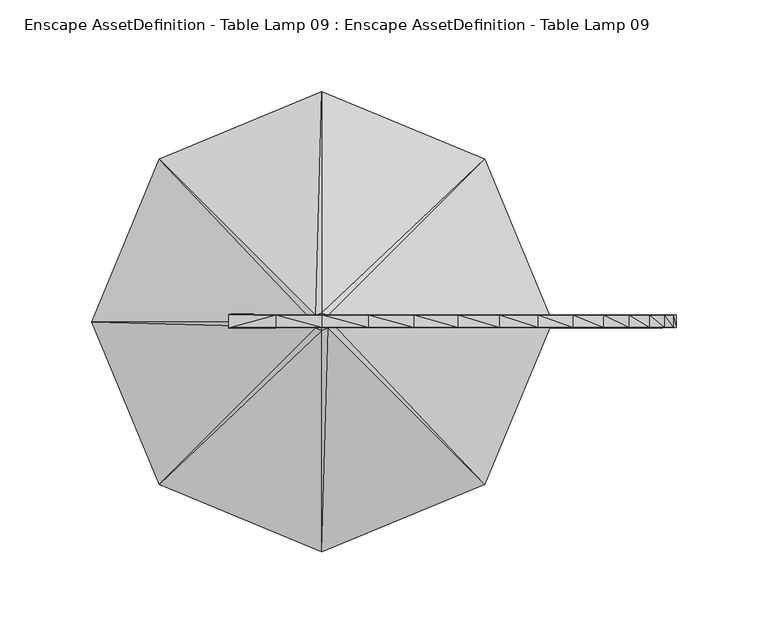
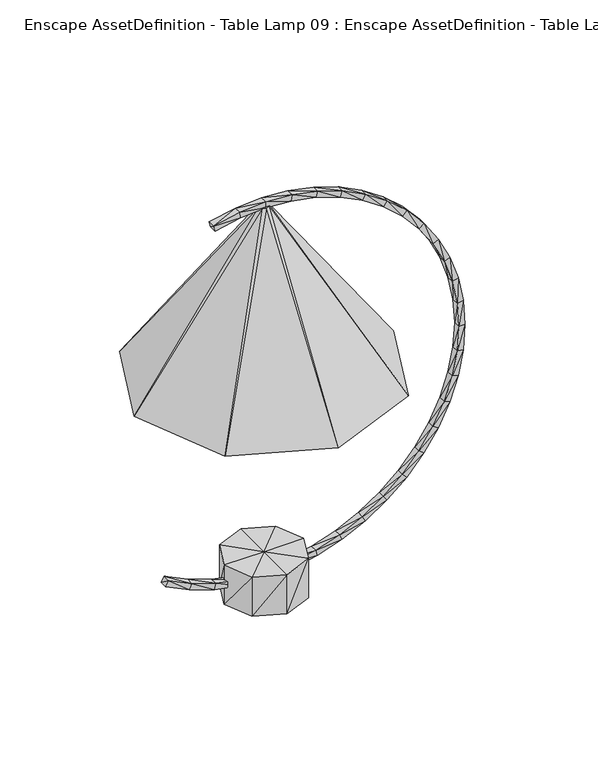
"""IFC4 building model written with IfcOpenShell, lengths in millimetres: geographic element geometry, Enscape AssetDefinition - Table Lamp 09 : Enscape AssetDefinition - Table Lamp 09."""

from ifc_helpers import new_model, si_unit, origin, place, context, project, spatial, faceted_brep, source, transform, mapped, element, save


def enscape_assetdefinition_table_lamp_09_enscape_425b9ab9(model_context):
    return source(origin(), model_context, "Body", "Brep", [
        faceted_brep([(4.6518203, -0.2605889, 394.6988881), (125.2307147, -0.260582, 222.6560414), (3.2475439, 3.1296343, 394.6988881), (-0.142678, -0.2605857, 222.6560414), (88.5096863, 88.3917883, 222.6560414), (88.5096788, -88.9129639, 222.6560414), (-0.1426784, 4.5339107, 394.6988881), (-0.1426778, -0.2605882, 394.6988881), (3.2475439, -3.6508101, 394.6988881), (-0.1426767, -125.6339699, 222.6560414), (-0.1426781, -5.0550862, 394.6988881), (-3.5329005, 3.1296343, 394.6988881), (-4.9371766, -0.2605893, 394.6988881), (-3.5328974, -3.6508101, 394.6988881), (-0.1426837, 125.1128018, 222.6560414), (-88.795051, 88.3917883, 222.6560414), (-125.516057, -0.260593, 222.6560414), (-88.7950286, -88.9129639, 222.6560414)], [[[0, 1, 2]], [[3, 4, 1]], [[3, 1, 5]], [[2, 1, 4]], [[0, 5, 1]], [[2, 4, 6]], [[7, 0, 2]], [[7, 2, 6]], [[8, 5, 0]], [[7, 8, 0]], [[3, 5, 9]], [[8, 9, 5]], [[10, 9, 8]], [[7, 10, 8]], [[7, 6, 11]], [[7, 11, 12]], [[7, 12, 13]], [[7, 13, 10]], [[6, 14, 11]], [[6, 4, 14]], [[11, 15, 12]], [[11, 14, 15]], [[12, 16, 13]], [[12, 15, 16]], [[13, 17, 10]], [[13, 16, 17]], [[10, 17, 9]], [[3, 9, 17]], [[3, 17, 16]], [[3, 16, 15]], [[3, 15, 14]], [[3, 14, 4]]]),
        faceted_brep([(25.1693577, -3.4795036, 398.3503282), (2.8e-06, 3.4794277, 400.000006), (2.8e-06, -3.4794847, 400.000006), (25.1693577, 3.4794451, 398.3503282), (4.3e-06, 3.5197299, 394.0055072), (-25.1693521, 3.4794926, 398.3503282), (-24.3869107, 3.5197346, 392.4070895), (24.3869182, 3.5197523, 392.4071193), (49.9080606, -3.4795015, 393.4295177), (49.9080606, 3.4794463, 393.4295177), (4.6e-06, -3.5197837, 394.0055072), (-24.3869107, -3.5197616, 392.4070895), (-49.4665354, 3.8066362, 387.4213099), (-49.4665243, -3.8066024, 387.4213099), (-25.1693521, -3.4795504, 398.3503282), (-50.9612858, -3.7752592, 393.0943012), (24.3869182, -3.5198063, 392.4071193), (-50.9612858, 3.7752048, 393.0943012), (48.3565666, -3.5198173, 387.6392543), (48.3565666, 3.5197749, 387.6392543), (71.4988261, -3.519821, 379.783541), (71.4988187, 3.5197658, 379.7835112), (73.7928227, 3.4794498, 385.3217363), (93.4176967, 3.5196904, 368.9742684), (96.4149684, 3.4794498, 374.1657138), (73.7928227, -3.4794977, 385.3217363), (93.4177116, -3.51978, 368.9742684), (96.4149684, -3.4794949, 374.1657138), (117.3874289, -3.4794933, 360.1523638), (117.3874289, 3.479453, 360.1523638), (113.7382016, 3.5197693, 355.3965688), (113.7381867, -3.5197062, 355.3965688), (136.3513768, -3.4794933, 343.5214758), (132.1126074, -3.5198049, 339.2826915), (136.3513768, 3.4794565, 343.521446), (132.1125925, 3.5196883, 339.2826915), (148.2265145, -3.5197691, 320.908308), (148.2265145, 3.5197248, 320.908308), (152.9822946, -3.4794984, 324.557513), (152.9822946, 3.4794656, 324.557513), (161.8042439, 3.5197318, 300.5877733), (166.9956446, 3.4794817, 303.5850525), (161.8042439, -3.5197588, 300.5877733), (166.9956446, -3.4795094, 303.5850525), (178.1516522, -3.4795073, 280.9629142), (178.1516522, 3.4794854, 280.9629142), (172.6134419, 3.519736, 278.6689103), (172.6134419, -3.5197544, 278.6689103), (186.2594485, -3.4795117, 257.078141), (180.4691851, -3.5197507, 255.5266321), (186.2594485, 3.4794996, 257.078141), (180.4691851, 3.5197404, 255.5266321), (185.237065, -3.5197455, 231.5569967), (185.237065, 3.5197441, 231.5569967), (191.1803037, -3.4794759, 232.3394418), (191.1803037, 3.4794714, 232.3394418), (186.8354529, 3.5197497, 207.1700692), (192.8299963, 3.4794505, 207.1700692), (186.8354529, -3.5197441, 207.1700692), (192.8299963, -3.4794458, 207.1700692), (191.1803186, -3.4794656, 182.0006967), (191.1803335, 3.479454, 182.0006967), (185.237065, 3.5197623, 182.7831417), (185.237065, -3.5197486, 182.7831417), (186.2594932, -3.47944, 157.2619826), (180.4692149, -3.5197581, 158.8134915), (186.2595081, 3.4794568, 157.2619826), (180.4692, 3.5197574, 158.8135064), (172.6134866, -3.5197544, 135.6712282), (172.6134866, 3.5197865, 135.6712282), (178.151682, -3.4794838, 133.3772242), (178.1516969, 3.4794863, 133.3772242), (161.8042439, 3.5197623, 113.7523353), (166.9957042, 3.4794905, 110.7550636), (161.8042588, -3.519736, 113.7523353), (166.9957042, -3.479454, 110.7550636), (152.9823542, -3.4794516, 89.7826105), (152.9823542, 3.4794952, 89.7826105), (148.2265741, 3.519828, 93.4318304), (148.2265741, -3.5197223, 93.4318379), (136.3514513, -3.4794488, 70.8186626), (132.1126819, -3.5197421, 75.0574321), (136.3514513, 3.4794966, 70.8186626), (132.1126819, 3.5198203, 75.0574172), (113.7382835, -3.5197523, 58.9435175), (113.7382686, 3.5197705, 58.9435175), (117.3875108, -3.4794472, 54.1877262), (117.3875108, 3.4794991, 54.1877262), (93.4177861, 3.519773, 45.365788), (96.4150503, 3.479501, 40.174365), (93.4177861, -3.5197288, 45.365788), (96.4150503, -3.4794421, 40.174365), (73.7929046, -3.4794407, 29.0183499), (73.7929046, 3.479504, 29.0183499), (71.4988932, 3.5197756, 34.5565788), (71.4988932, -3.5197164, 34.5565788), (49.9081463, -3.4794393, 20.9105667), (48.3566448, -3.5197141, 26.7008469), (49.9081463, 3.4795047, 20.9105667), (48.3566448, 3.5197774, 26.7008469), (24.3869945, -3.5197134, 21.9329763), (24.3869927, 3.5197788, 21.9329763), (25.1694452, -3.47944, 15.9897208), (25.1694452, 3.4795068, 15.9897208), (7.78e-05, 3.5197863, 20.3345567), (8.48e-05, 3.4795164, 14.3400375), (7.8e-05, -3.5197199, 20.3345567), (8.48e-05, -3.4794495, 14.3400375), (-25.1692738, -3.4794488, 15.9897208), (-25.1692738, 3.4795168, 15.9897208), (-24.3868418, 3.5198, 21.9329298), (-24.3868418, -3.5197353, 21.9329298), (-49.9079712, -3.4795469, 20.9105909), (-48.3564921, -3.5197369, 26.7008003), (-49.9079712, 3.4796137, 20.9105909), (-48.3564921, 3.5197993, 26.7008003), (-71.4987516, -3.5197251, 34.5565341), (-71.4987516, 3.5197847, 34.5565341), (-73.7927482, -3.4794714, 29.0183257), (-73.7927556, 3.4795632, 29.0183499), (-94.4333896, 3.8066311, 45.8635092), (-97.3454937, 3.7752849, 40.7706685), (-94.4333896, -3.806574, 45.8635092), (-97.3454937, -3.7752257, 40.7706685)], [[[0, 1, 2]], [[1, 0, 3]], [[3, 4, 1]], [[5, 2, 1]], [[1, 6, 5]], [[6, 1, 4]], [[4, 3, 7]], [[8, 3, 0]], [[3, 8, 9]], [[9, 7, 3]], [[7, 10, 4]], [[4, 11, 6]], [[11, 4, 10]], [[12, 5, 6]], [[13, 6, 11]], [[6, 13, 12]], [[10, 14, 11]], [[15, 11, 14]], [[11, 15, 13]], [[16, 2, 10]], [[10, 7, 16]], [[14, 10, 2]], [[2, 5, 14]], [[5, 15, 14]], [[15, 12, 13]], [[12, 15, 17]], [[15, 5, 17]], [[5, 12, 17]], [[2, 16, 0]], [[18, 0, 16]], [[19, 16, 7]], [[16, 19, 18]], [[0, 18, 8]], [[20, 8, 18]], [[21, 18, 19]], [[18, 21, 20]], [[7, 9, 19]], [[22, 19, 9]], [[19, 22, 21]], [[23, 20, 21]], [[24, 21, 22]], [[21, 24, 23]], [[8, 20, 25]], [[26, 25, 20]], [[20, 23, 26]], [[25, 9, 8]], [[9, 25, 22]], [[27, 22, 25]], [[22, 27, 24]], [[28, 24, 27]], [[24, 28, 29]], [[29, 23, 24]], [[30, 26, 23]], [[23, 29, 30]], [[25, 26, 27]], [[31, 27, 26]], [[26, 30, 31]], [[27, 31, 28]], [[32, 29, 28]], [[33, 28, 31]], [[28, 33, 32]], [[29, 32, 34]], [[34, 30, 29]], [[35, 31, 30]], [[30, 34, 35]], [[31, 35, 33]], [[36, 32, 33]], [[37, 33, 35]], [[33, 37, 36]], [[38, 34, 32]], [[32, 36, 38]], [[34, 38, 39]], [[39, 35, 34]], [[35, 39, 37]], [[40, 36, 37]], [[41, 37, 39]], [[37, 41, 40]], [[42, 38, 36]], [[36, 40, 42]], [[43, 39, 38]], [[38, 42, 43]], [[39, 43, 41]], [[44, 41, 43]], [[41, 44, 45]], [[45, 40, 41]], [[46, 42, 40]], [[40, 45, 46]], [[47, 43, 42]], [[42, 46, 47]], [[43, 47, 44]], [[48, 45, 44]], [[49, 44, 47]], [[44, 49, 48]], [[45, 48, 50]], [[50, 46, 45]], [[51, 47, 46]], [[46, 50, 51]], [[47, 51, 49]], [[52, 48, 49]], [[53, 49, 51]], [[49, 53, 52]], [[54, 50, 48]], [[48, 52, 54]], [[50, 54, 55]], [[55, 51, 50]], [[51, 55, 53]], [[56, 52, 53]], [[57, 53, 55]], [[53, 57, 56]], [[58, 54, 52]], [[52, 56, 58]], [[59, 55, 54]], [[54, 58, 59]], [[55, 59, 57]], [[60, 57, 59]], [[57, 60, 61]], [[61, 56, 57]], [[62, 58, 56]], [[56, 61, 62]], [[63, 59, 58]], [[58, 62, 63]], [[59, 63, 60]], [[64, 61, 60]], [[65, 60, 63]], [[60, 65, 64]], [[61, 64, 66]], [[66, 62, 61]], [[67, 63, 62]], [[62, 66, 67]], [[63, 67, 65]], [[68, 64, 65]], [[69, 65, 67]], [[65, 69, 68]], [[70, 66, 64]], [[64, 68, 70]], [[66, 70, 71]], [[71, 67, 66]], [[67, 71, 69]], [[72, 68, 69]], [[73, 69, 71]], [[69, 73, 72]], [[74, 70, 68]], [[68, 72, 74]], [[75, 71, 70]], [[70, 74, 75]], [[71, 75, 73]], [[76, 73, 75]], [[73, 76, 77]], [[77, 72, 73]], [[78, 74, 72]], [[72, 77, 78]], [[79, 75, 74]], [[74, 78, 79]], [[75, 79, 76]], [[80, 77, 76]], [[81, 76, 79]], [[76, 81, 80]], [[77, 80, 82]], [[82, 78, 77]], [[83, 79, 78]], [[78, 82, 83]], [[79, 83, 81]], [[84, 80, 81]], [[85, 81, 83]], [[81, 85, 84]], [[86, 82, 80]], [[80, 84, 86]], [[82, 86, 87]], [[87, 83, 82]], [[83, 87, 85]], [[88, 84, 85]], [[89, 85, 87]], [[85, 89, 88]], [[90, 86, 84]], [[84, 88, 90]], [[91, 87, 86]], [[86, 90, 91]], [[87, 91, 89]], [[92, 89, 91]], [[89, 92, 93]], [[93, 88, 89]], [[94, 90, 88]], [[88, 93, 94]], [[95, 91, 90]], [[90, 94, 95]], [[91, 95, 92]], [[96, 93, 92]], [[97, 92, 95]], [[92, 97, 96]], [[93, 96, 98]], [[98, 94, 93]], [[99, 95, 94]], [[94, 98, 99]], [[95, 99, 97]], [[100, 96, 97]], [[101, 97, 99]], [[97, 101, 100]], [[102, 98, 96]], [[96, 100, 102]], [[98, 102, 103]], [[103, 99, 98]], [[99, 103, 101]], [[104, 100, 101]], [[105, 101, 103]], [[101, 105, 104]], [[106, 102, 100]], [[100, 104, 106]], [[107, 103, 102]], [[102, 106, 107]], [[103, 107, 105]], [[108, 105, 107]], [[105, 108, 109]], [[109, 104, 105]], [[110, 106, 104]], [[104, 109, 110]], [[111, 107, 106]], [[106, 110, 111]], [[107, 111, 108]], [[112, 109, 108]], [[113, 108, 111]], [[108, 113, 112]], [[109, 112, 114]], [[114, 110, 109]], [[115, 111, 110]], [[110, 114, 115]], [[111, 115, 113]], [[116, 112, 113]], [[117, 113, 115]], [[113, 117, 116]], [[118, 114, 112]], [[112, 116, 118]], [[114, 118, 119]], [[119, 115, 114]], [[115, 119, 117]], [[120, 116, 117]], [[121, 117, 119]], [[117, 121, 120]], [[122, 118, 116]], [[116, 120, 122]], [[121, 118, 123]], [[118, 121, 119]], [[118, 122, 123]], [[121, 122, 120]], [[122, 121, 123]]]),
        faceted_brep([(27.3081046, 27.3081046, 40.1402563), (38.6194922, 3e-07, 2.34e-05), (27.3081046, 27.3081083, 2.34e-05), (38.6194922, -4e-07, 40.1402563), (27.3081027, -27.3081046, 2.34e-05), (1.3e-06, -1.1e-06, 2.34e-05), (-1.7e-06, 38.6194922, 40.1402563), (-1.7e-06, 38.6194959, 2.34e-05), (1.3e-06, -4e-07, 40.1402675), (27.3081027, -27.3081083, 40.1402675), (5e-07, -38.6194885, 2.34e-05), (5e-07, -38.6194922, 40.1402563), (-27.3081046, 27.3081046, 40.1402563), (-38.6194922, -2.6e-06, 40.1402563), (-27.308099, -27.3081083, 40.1402675), (-27.3081046, 27.3081083, 2.34e-05), (-38.6194922, -3.3e-06, 2.34e-05), (-27.308099, -27.3081046, 2.34e-05)], [[[0, 1, 2]], [[1, 0, 3]], [[3, 4, 1]], [[5, 2, 1]], [[5, 1, 4]], [[6, 2, 7]], [[2, 6, 0]], [[5, 7, 2]], [[8, 3, 0]], [[8, 0, 6]], [[4, 3, 9]], [[8, 9, 3]], [[9, 10, 4]], [[5, 4, 10]], [[10, 9, 11]], [[8, 11, 9]], [[8, 6, 12]], [[8, 12, 13]], [[8, 13, 14]], [[8, 14, 11]], [[7, 12, 6]], [[12, 7, 15]], [[15, 13, 12]], [[5, 15, 7]], [[13, 15, 16]], [[5, 16, 15]], [[16, 14, 13]], [[14, 16, 17]], [[17, 11, 14]], [[11, 17, 10]], [[5, 10, 17]], [[5, 17, 16]]]),
    ])


if __name__ == "__main__":
    model = new_model("IFC4")
    model_context = context("Model", 3, world=origin())
    ifc_project = project(units=[si_unit("LENGTHUNIT", "METRE", prefix="MILLI")], contexts=[model_context])
    site = spatial("IfcSite", under=ifc_project)
    building = spatial("IfcBuilding", under=site)
    placement = place(None, origin())
    enscape_assetdefinition_table_lamp_09_enscape_shape = enscape_assetdefinition_table_lamp_09_enscape_425b9ab9(model_context)
    element("IfcGeographicElement", 1, ObjectType="Enscape AssetDefinition - Table Lamp 09 : Enscape AssetDefinition - Table Lamp 09", at=placement, inside=building, context=model_context, shape_type="MappedRepresentation", body=[
        mapped(enscape_assetdefinition_table_lamp_09_enscape_shape, transform((0.0, 0.0, 0.0), x_axis=(1.0, 0.0, 0.0), y_axis=(0.0, 1.0, 0.0), z_axis=(0.0, 0.0, 1.0))),
    ])
    save(model, "model.ifc")
